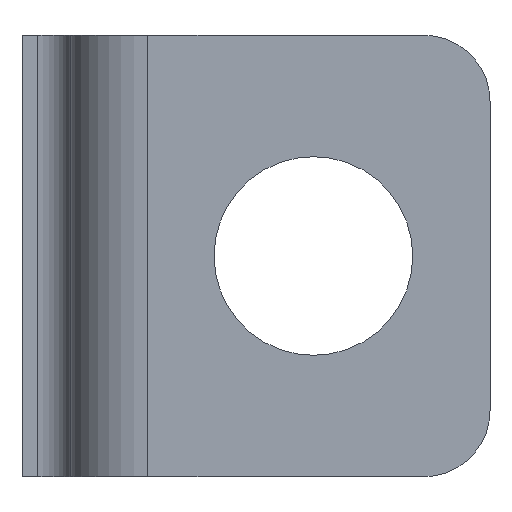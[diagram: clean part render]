
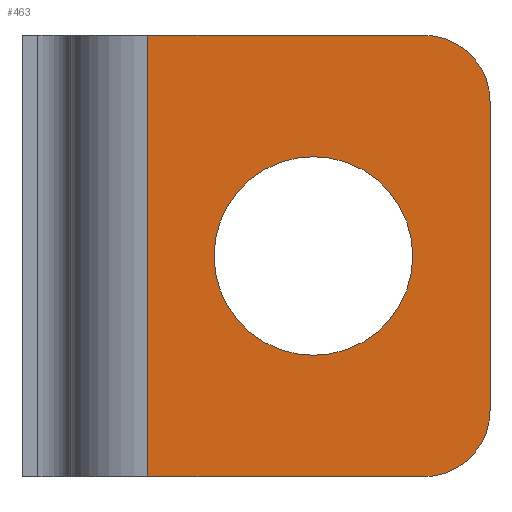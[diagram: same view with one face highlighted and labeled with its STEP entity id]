
A CAD part, left-side view. The second image highlights one B-rep face of the part: STEP entity #463.
In plain terms, the highlighted planar face has unit normal (-1, 0, 0).
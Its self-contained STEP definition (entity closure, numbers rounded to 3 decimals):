
#77=CARTESIAN_POINT('',(226.225,281.9,5.5));
#78=VERTEX_POINT('',#77);
#79=CARTESIAN_POINT('',(226.225,281.9,10.0));
#80=DIRECTION('',(1.0,0.0,0.0));
#81=DIRECTION('',(0.0,0.0,1.0));
#82=AXIS2_PLACEMENT_3D('',#79,#80,#81);
#83=CIRCLE('',#82,4.5);
#84=EDGE_CURVE('',#78,#78,#83,.T.);
#105=CARTESIAN_POINT('',(226.225,273.9,3.));
#106=VERTEX_POINT('',#105);
#107=CARTESIAN_POINT('',(226.225,276.9,0.0));
#108=VERTEX_POINT('',#107);
#109=CARTESIAN_POINT('',(226.225,276.9,3.));
#110=DIRECTION('',(1.0,0.0,0.0));
#111=DIRECTION('',(0.0,-0.707,-0.707));
#112=AXIS2_PLACEMENT_3D('',#109,#110,#111);
#113=CIRCLE('',#112,3.);
#114=EDGE_CURVE('',#106,#108,#113,.T.);
#156=CARTESIAN_POINT('',(226.225,273.9,17.0));
#157=VERTEX_POINT('',#156);
#164=CARTESIAN_POINT('',(226.225,273.9,3.));
#165=DIRECTION('',(0.0,0.0,1.0));
#166=VECTOR('',#165,14.0);
#167=LINE('',#164,#166);
#168=EDGE_CURVE('',#106,#157,#167,.T.);
#222=CARTESIAN_POINT('',(226.225,276.9,20.0));
#223=VERTEX_POINT('',#222);
#224=CARTESIAN_POINT('',(226.225,276.9,17.0));
#225=DIRECTION('',(1.0,0.0,0.0));
#226=DIRECTION('',(0.0,-0.707,0.707));
#227=AXIS2_PLACEMENT_3D('',#224,#225,#226);
#228=CIRCLE('',#227,3.);
#229=EDGE_CURVE('',#223,#157,#228,.T.);
#316=CARTESIAN_POINT('',(226.225,289.4,20.0));
#317=VERTEX_POINT('',#316);
#325=CARTESIAN_POINT('',(226.225,276.9,20.0));
#326=DIRECTION('',(0.0,1.0,0.0));
#327=VECTOR('',#326,12.5);
#328=LINE('',#325,#327);
#329=EDGE_CURVE('',#223,#317,#328,.T.);
#435=CARTESIAN_POINT('',(226.225,273.9,0.0));
#436=DIRECTION('',(-1.0,0.0,0.0));
#437=DIRECTION('',(0.0,0.0,1.0));
#438=AXIS2_PLACEMENT_3D('',#435,#436,#437);
#439=PLANE('',#438);
#440=ORIENTED_EDGE('',*,*,#114,.F.);
#441=ORIENTED_EDGE('',*,*,#168,.T.);
#442=ORIENTED_EDGE('',*,*,#229,.F.);
#443=ORIENTED_EDGE('',*,*,#329,.T.);
#444=CARTESIAN_POINT('',(226.225,289.4,0.0));
#445=VERTEX_POINT('',#444);
#446=CARTESIAN_POINT('',(226.225,289.4,0.0));
#447=DIRECTION('',(0.0,0.0,1.0));
#448=VECTOR('',#447,20.0);
#449=LINE('',#446,#448);
#450=EDGE_CURVE('',#445,#317,#449,.T.);
#451=ORIENTED_EDGE('',*,*,#450,.F.);
#452=CARTESIAN_POINT('',(226.225,276.9,0.0));
#453=DIRECTION('',(0.0,1.0,0.0));
#454=VECTOR('',#453,12.5);
#455=LINE('',#452,#454);
#456=EDGE_CURVE('',#108,#445,#455,.T.);
#457=ORIENTED_EDGE('',*,*,#456,.F.);
#458=EDGE_LOOP('',(#440,#441,#442,#443,#451,#457));
#459=FACE_OUTER_BOUND('',#458,.T.);
#460=ORIENTED_EDGE('',*,*,#84,.T.);
#461=EDGE_LOOP('',(#460));
#462=FACE_BOUND('',#461,.T.);
#463=ADVANCED_FACE('',(#459,#462),#439,.T.);
